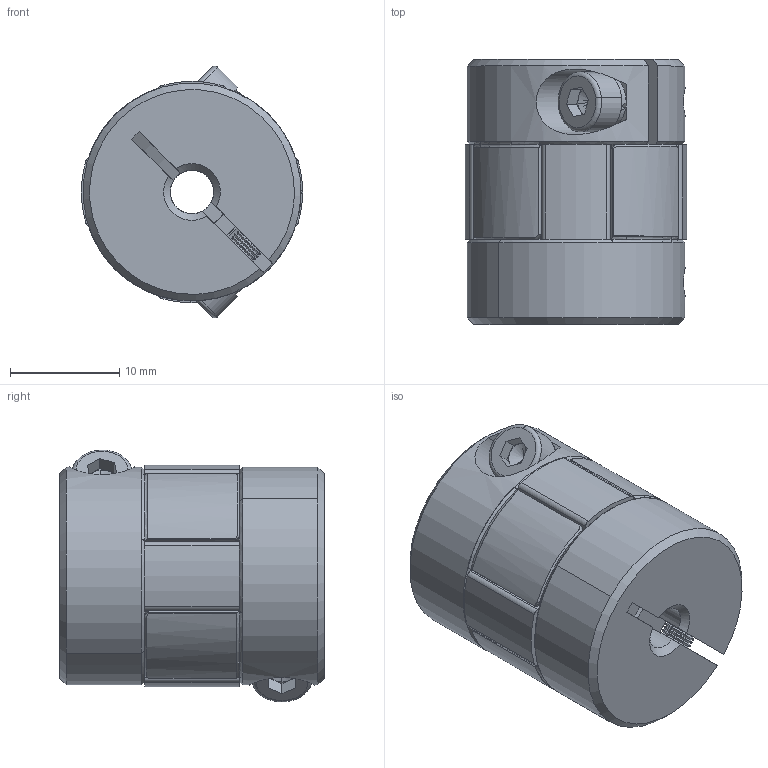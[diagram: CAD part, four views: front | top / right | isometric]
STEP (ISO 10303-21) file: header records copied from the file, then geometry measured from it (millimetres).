
FILE_DESCRIPTION (( 'STEP AP203' ), '1' );
FILE_NAME ('LF-B-D20L25-4-4.STEP', '2021-10-20T00:54:49', ( '' ), ( '' ), 'SwSTEP 2.0', 'SolidWorks 2018', '' );
FILE_SCHEMA (( 'CONFIG_CONTROL_DESIGN' ));
Length unit declared in the file: millimetre
Products named in the file (1): LF-B-D20L25-4-4
Bounding box: 20.31 x 24.3 x 23.09 mm (x, y, z)
Volume: 6815.3 mm3; surface area: 3585.2 mm2
Topology: 1 solids, 1 shells, 431 faces, 1076 edges, 637 vertices
Faces by surface type: cylinder 167, cone 158, plane 94, torus 12
Entity records: 13178 total; most frequent: CARTESIAN_POINT 2731, DIRECTION 2331, ORIENTED_EDGE 2144, EDGE_CURVE 1072, AXIS2_PLACEMENT_3D 959, VERTEX_POINT 637, CIRCLE 527, EDGE_LOOP 447
